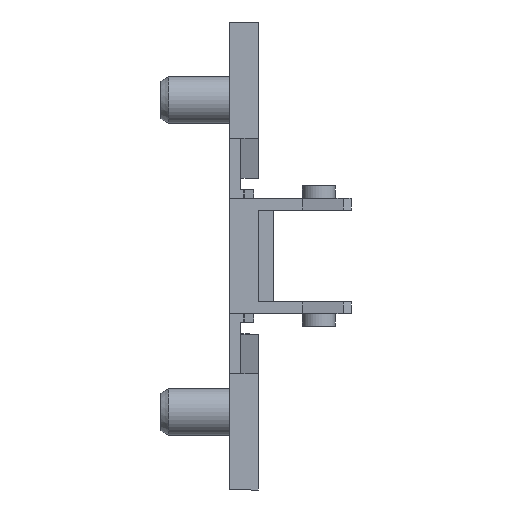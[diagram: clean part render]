
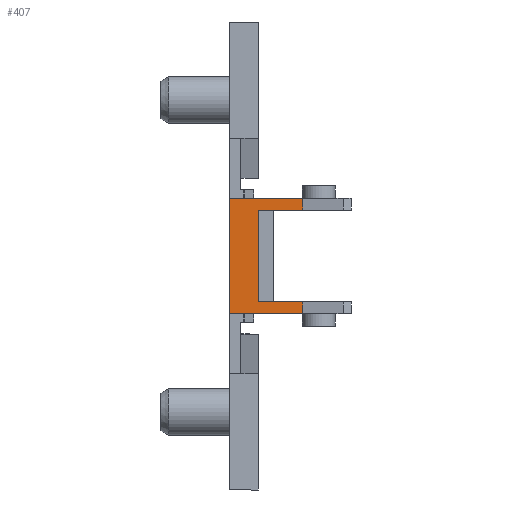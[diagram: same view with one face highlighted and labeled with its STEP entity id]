
A CAD part, front view. The second image highlights one B-rep face of the part: STEP entity #407.
In plain terms, the highlighted planar face has unit normal (0, -1, 0).
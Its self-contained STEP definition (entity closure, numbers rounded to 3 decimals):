
#95 = DIRECTION ( 'NONE',  ( 0., -1., 0. ) ) ;
#124 = EDGE_CURVE ( 'NONE', #1893, #3542, #3800, .T. ) ;
#141 = CARTESIAN_POINT ( 'NONE',  ( 5.523, -25.55, 5.9 ) ) ;
#271 = VERTEX_POINT ( 'NONE', #2560 ) ;
#334 = ORIENTED_EDGE ( 'NONE', *, *, #1102, .T. ) ;
#407 = ADVANCED_FACE ( 'NONE', ( #2709 ), #4059, .T. ) ;
#495 = DIRECTION ( 'NONE',  ( -1., 0., 0. ) ) ;
#510 = VECTOR ( 'NONE', #4144, 1000. ) ;
#581 = VERTEX_POINT ( 'NONE', #3781 ) ;
#701 = CARTESIAN_POINT ( 'NONE',  ( 5.523, -25.55, -4.7 ) ) ;
#738 = LINE ( 'NONE', #3079, #4339 ) ;
#837 = EDGE_LOOP ( 'NONE', ( #3778, #1044, #2948, #1482, #334, #1622, #2470, #3820 ) ) ;
#880 = DIRECTION ( 'NONE',  ( 0., 0., -1. ) ) ;
#1024 = AXIS2_PLACEMENT_3D ( 'NONE', #2631, #95, #495 ) ;
#1044 = ORIENTED_EDGE ( 'NONE', *, *, #2572, .T. ) ;
#1063 = VECTOR ( 'NONE', #1531, 1000. ) ;
#1102 = EDGE_CURVE ( 'NONE', #1162, #1221, #738, .T. ) ;
#1162 = VERTEX_POINT ( 'NONE', #1289 ) ;
#1171 = LINE ( 'NONE', #3282, #1063 ) ;
#1221 = VERTEX_POINT ( 'NONE', #2081 ) ;
#1255 = CARTESIAN_POINT ( 'NONE',  ( 10.5, -25.55, 4.7 ) ) ;
#1260 = DIRECTION ( 'NONE',  ( 0., 0., -1. ) ) ;
#1289 = CARTESIAN_POINT ( 'NONE',  ( -2., -25.55, 5.9 ) ) ;
#1344 = CARTESIAN_POINT ( 'NONE',  ( -0.5, -25.55, -5.9 ) ) ;
#1368 = CARTESIAN_POINT ( 'NONE',  ( 10.5, -25.55, -4.7 ) ) ;
#1482 = ORIENTED_EDGE ( 'NONE', *, *, #2410, .T. ) ;
#1519 = LINE ( 'NONE', #1255, #2848 ) ;
#1531 = DIRECTION ( 'NONE',  ( 0., 0., -1. ) ) ;
#1553 = DIRECTION ( 'NONE',  ( 1., 0., 0. ) ) ;
#1622 = ORIENTED_EDGE ( 'NONE', *, *, #3475, .T. ) ;
#1634 = CARTESIAN_POINT ( 'NONE',  ( 5.523, -25.55, 67.733 ) ) ;
#1839 = LINE ( 'NONE', #1344, #2673 ) ;
#1893 = VERTEX_POINT ( 'NONE', #4228 ) ;
#2081 = CARTESIAN_POINT ( 'NONE',  ( -2., -25.55, -5.9 ) ) ;
#2104 = EDGE_CURVE ( 'NONE', #271, #1893, #1171, .T. ) ;
#2120 = DIRECTION ( 'NONE',  ( 1., 0., 0. ) ) ;
#2147 = CARTESIAN_POINT ( 'NONE',  ( 10.5, -25.55, 5.9 ) ) ;
#2201 = EDGE_CURVE ( 'NONE', #3542, #581, #4377, .T. ) ;
#2410 = EDGE_CURVE ( 'NONE', #3719, #1162, #4107, .T. ) ;
#2470 = ORIENTED_EDGE ( 'NONE', *, *, #2201, .F. ) ;
#2490 = DIRECTION ( 'NONE',  ( -1., 0., 0. ) ) ;
#2560 = CARTESIAN_POINT ( 'NONE',  ( 1., -25.55, 4.7 ) ) ;
#2571 = VERTEX_POINT ( 'NONE', #2913 ) ;
#2572 = EDGE_CURVE ( 'NONE', #271, #2571, #1519, .T. ) ;
#2631 = CARTESIAN_POINT ( 'NONE',  ( 10.5, -25.55, -5.9 ) ) ;
#2668 = VECTOR ( 'NONE', #1260, 1000. ) ;
#2673 = VECTOR ( 'NONE', #2120, 1000. ) ;
#2709 = FACE_OUTER_BOUND ( 'NONE', #837, .T. ) ;
#2848 = VECTOR ( 'NONE', #1553, 1000. ) ;
#2886 = LINE ( 'NONE', #4103, #2668 ) ;
#2913 = CARTESIAN_POINT ( 'NONE',  ( 5.523, -25.55, 4.7 ) ) ;
#2948 = ORIENTED_EDGE ( 'NONE', *, *, #3796, .F. ) ;
#3079 = CARTESIAN_POINT ( 'NONE',  ( -2., -25.55, 15.37 ) ) ;
#3141 = DIRECTION ( 'NONE',  ( 1., 0., 0. ) ) ;
#3282 = CARTESIAN_POINT ( 'NONE',  ( 1., -25.55, -5.9 ) ) ;
#3475 = EDGE_CURVE ( 'NONE', #1221, #581, #1839, .T. ) ;
#3542 = VERTEX_POINT ( 'NONE', #701 ) ;
#3719 = VERTEX_POINT ( 'NONE', #141 ) ;
#3778 = ORIENTED_EDGE ( 'NONE', *, *, #2104, .F. ) ;
#3781 = CARTESIAN_POINT ( 'NONE',  ( 5.523, -25.55, -5.9 ) ) ;
#3796 = EDGE_CURVE ( 'NONE', #3719, #2571, #2886, .T. ) ;
#3800 = LINE ( 'NONE', #1368, #4291 ) ;
#3820 = ORIENTED_EDGE ( 'NONE', *, *, #124, .F. ) ;
#4059 = PLANE ( 'NONE',  #1024 ) ;
#4103 = CARTESIAN_POINT ( 'NONE',  ( 5.523, -25.55, 67.733 ) ) ;
#4107 = LINE ( 'NONE', #2147, #4275 ) ;
#4144 = DIRECTION ( 'NONE',  ( 0., 0., -1. ) ) ;
#4228 = CARTESIAN_POINT ( 'NONE',  ( 1., -25.55, -4.7 ) ) ;
#4275 = VECTOR ( 'NONE', #2490, 1000. ) ;
#4291 = VECTOR ( 'NONE', #3141, 1000. ) ;
#4339 = VECTOR ( 'NONE', #880, 1000. ) ;
#4377 = LINE ( 'NONE', #1634, #510 ) ;
